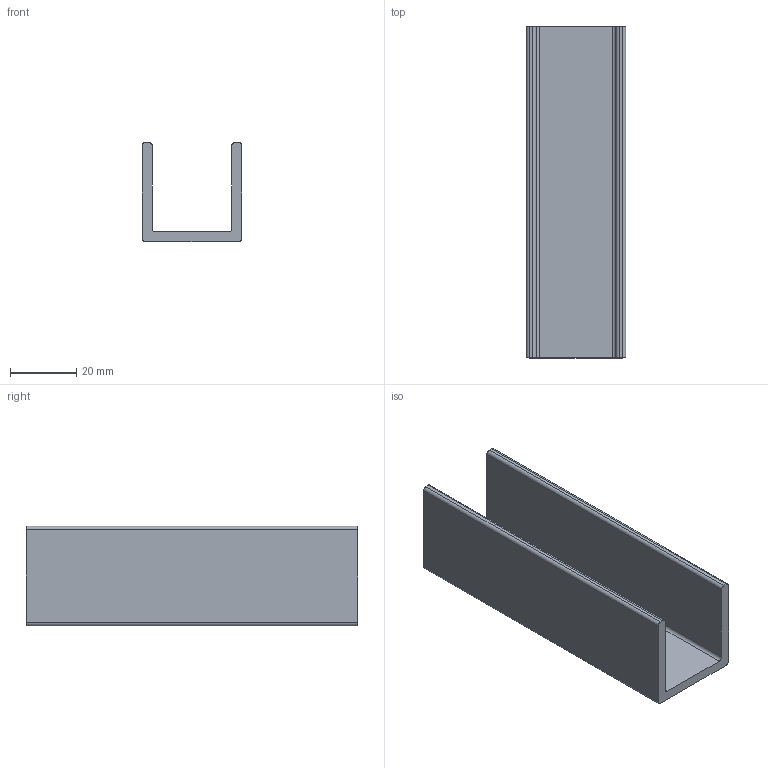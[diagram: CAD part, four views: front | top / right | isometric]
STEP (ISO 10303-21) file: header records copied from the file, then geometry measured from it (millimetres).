
FILE_DESCRIPTION(('FreeCAD Model'),'2;1');
FILE_NAME('/home/alexandre/Bureau/Cours-FreeCAD/Exercices/Exo-2.step', '2016-05-29T15:03:40',('Almisuifre'),(''), 'Open CASCADE STEP processor 6.8','FreeCAD','Unknown');
FILE_SCHEMA(('AUTOMOTIVE_DESIGN_CC2 { 1 2 10303 214 -1 1 5 4 }'));
Length unit declared in the file: millimetre
Products named in the file (2): ASSEMBLY; Pad
Assembly tree (1 placements, depth 2):
  ASSEMBLY
    Pad
Bounding box: 30 x 100 x 30 mm (x, y, z)
Volume: 25114.2 mm3; surface area: 17558.9 mm2
Topology: 1 solids, 1 shells, 18 faces, 48 edges, 32 vertices
Faces by surface type: plane 10, cylinder 8
Entity records: 1279 total; most frequent: CARTESIAN_POINT 292, DIRECTION 184, LINE 112, VECTOR 112, ORIENTED_EDGE 96, PCURVE 96, DEFINITIONAL_REPRESENTATION 96, EDGE_CURVE 48
